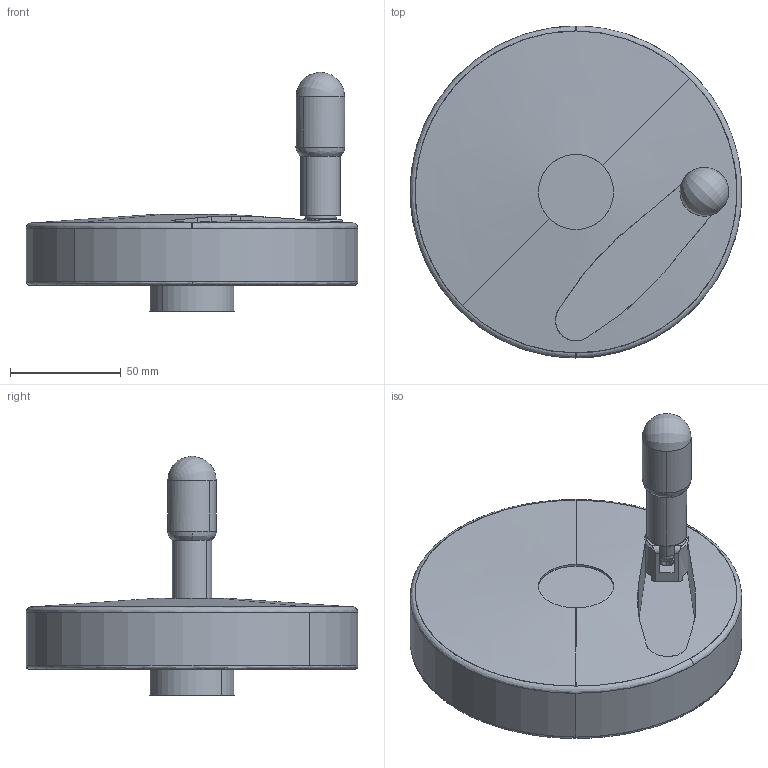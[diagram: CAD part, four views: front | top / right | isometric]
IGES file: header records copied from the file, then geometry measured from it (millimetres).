
Start section: SolidWorks IGES file using analytic representation for surfaces
Global section: file name: X:\11_SW2020-Inv2020\00_全2021-11新製品まで\e\EDHN150F-LB\edhn150f-lb.IGS; native system: SolidWorks 2020; preprocessor: SolidWorks 2020; author: ImaoCorp; date: 211025.113251; units: millimetre
Bounding box: 149.95 x 150 x 108.28 mm (x, y, z)
Surface area: 62400.7 mm2 (no closed solid volume)
Topology: 0 solids, 0 shells, 117 faces, 2040 edges, 2034 vertices
Faces by surface type: revolution 72, bspline 45
